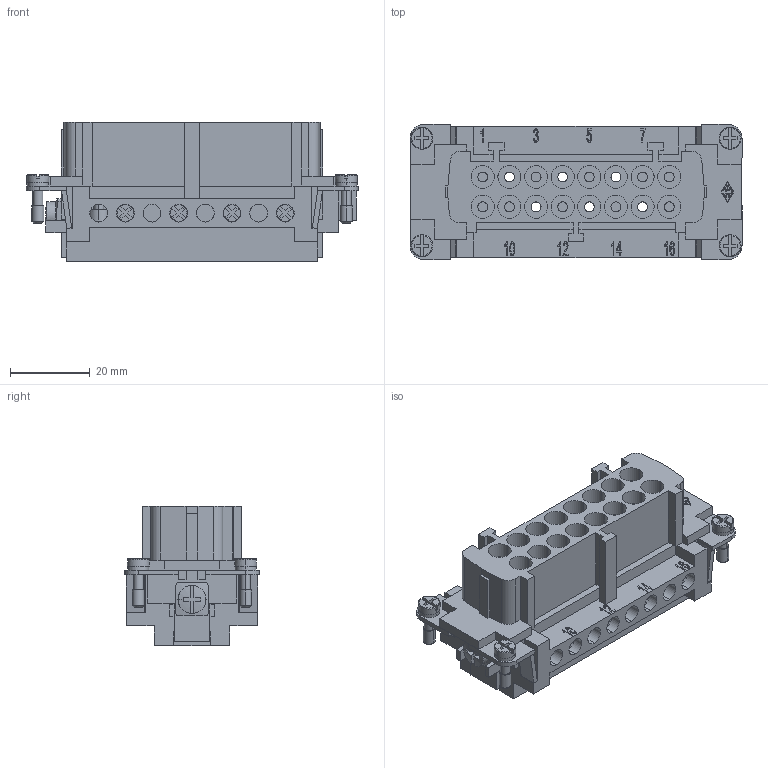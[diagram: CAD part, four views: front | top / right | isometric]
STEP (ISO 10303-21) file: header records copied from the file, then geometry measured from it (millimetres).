
FILE_DESCRIPTION (( 'STEP AP203' ), '1' );
FILE_NAME ('CMEF-06T.STEP', '2018-02-16T15:45:54', ( 'Mencom User' ), ( 'Hewlett-Packard Company' ), 'SwSTEP 2.0', 'SolidWorks 2017', '' );
FILE_SCHEMA (( 'CONFIG_CONTROL_DESIGN' ));
Products named in the file (1): CMEF-06T
Bounding box: 83.5 x 34 x 35 mm (x, y, z)
Volume: 39745.6 mm3; surface area: 28183.8 mm2
Topology: 1 solids, 1 shells, 1456 faces, 3835 edges, 2520 vertices
Faces by surface type: plane 914, cylinder 377, bspline 151, cone 8, torus 6
Entity records: 47702 total; most frequent: CARTESIAN_POINT 12352, ORIENTED_EDGE 7670, DIRECTION 6660, EDGE_CURVE 3835, LINE 2580, VECTOR 2580, VERTEX_POINT 2520, AXIS2_PLACEMENT_3D 2040
